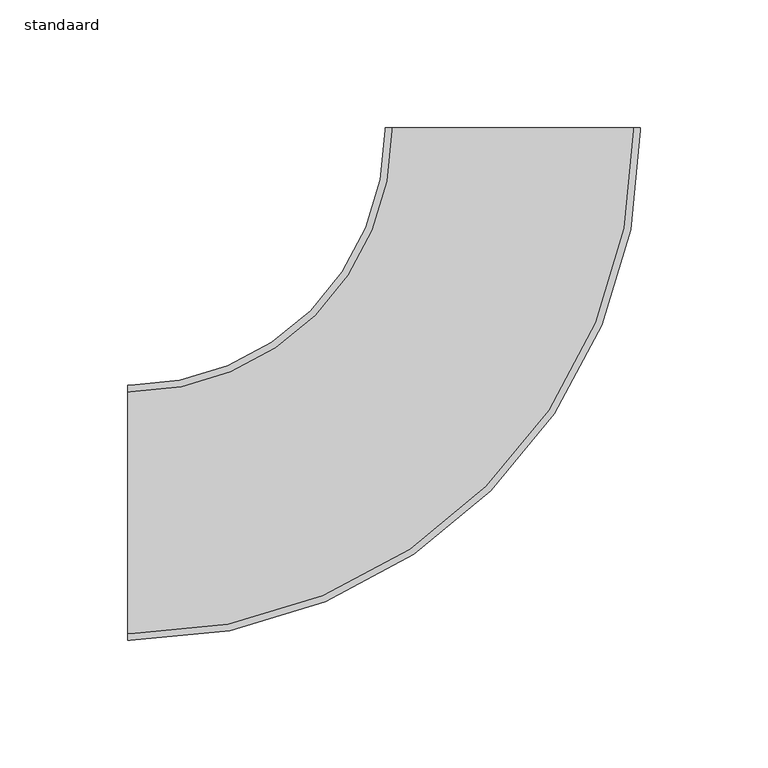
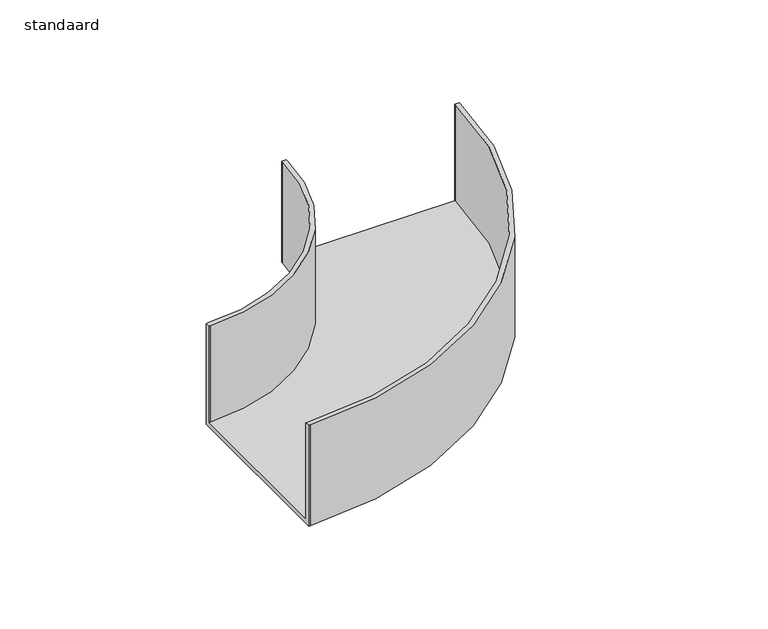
"""IFC4 building model written with IfcOpenShell, lengths in millimetres: cable carrier fitting geometry, AI_Raccord cdc_Coude horizontal rayon court : standaard."""

from ifc_helpers import new_model, si_unit, frame, origin, place, context, project, spatial, polyline, circle_curve, source, transform, mapped, element, save
from ifc_brep_helpers import plane_surface, cylinder_surface, revolved_surface, advanced_brep


def standaard_b1635a4a(model_context):
    return source(origin(), model_context, "Body", "AdvancedBrep", [
        advanced_brep(
        [(-151.0, -50.0, -30.0), (-151.0, -50.0, 30.0), (-151.0, -47.46, 30.0), (-151.0, -47.46, -27.46), (-151.0, 47.46, -27.46), (-151.0, 47.46, 30.0), (-151.0, 50.0, 30.0), (-151.0, 50.0, -30.0), (50.0, 151.0, -30.0), (-50.0, 151.0, -30.0), (-50.0, 151.0, 30.0), (-47.46, 151.0, 30.0), (-47.46, 151.0, -27.46), (47.46, 151.0, -27.46), (47.46, 151.0, 30.0), (50.0, 151.0, 30.0), (-150.0, -50.0, -30.0), (-150.0, -50.0, 30.0), (50.0, 150.0, 30.0), (47.46, 150.0, 30.0), (-150.0, -47.46, 30.0), (-150.0, -47.46, -27.46), (47.46, 150.0, -27.46), (-47.46, 150.0, -27.46), (-150.0, 47.46, -27.46), (-150.0, 47.46, 30.0), (-47.46, 150.0, 30.0), (-50.0, 150.0, 30.0), (-150.0, 50.0, 30.0), (-150.0, 50.0, -30.0), (-50.0, 150.0, -30.0), (50.0, 150.0, -30.0)],
        [
            (0, 1),
            (1, 2),
            (2, 3),
            (3, 4),
            (4, 5),
            (5, 6),
            (6, 7),
            (7, 0),
            (8, 9),
            (9, 10),
            (10, 11),
            (11, 12),
            (12, 13),
            (13, 14),
            (14, 15),
            (15, 8),
            (0, 16),
            (16, 17),
            (17, 1),
            (17, 18, circle_curve(frame((-150.0, 150.0, 30.0), z_axis=(0.0, 0.0, 1.0), x_axis=(0.0, -1.0, 0.0)), 200.0)),
            (18, 15),
            (14, 19),
            (19, 20, circle_curve(frame((-150.0, 150.0, 30.0), z_axis=(0.0, 0.0, -1.0), x_axis=(0.0, -1.0, 0.0)), 197.46)),
            (20, 2),
            (20, 21),
            (21, 3),
            (21, 22, circle_curve(frame((-150.0, 150.0, -27.46), z_axis=(0.0, 0.0, 1.0), x_axis=(0.0, -1.0, 0.0)), 197.46)),
            (22, 13),
            (12, 23),
            (23, 24, circle_curve(frame((-150.0, 150.0, -27.46), z_axis=(0.0, 0.0, -1.0), x_axis=(0.0, -1.0, 0.0)), 102.54)),
            (24, 4),
            (24, 25),
            (25, 5),
            (25, 26, circle_curve(frame((-150.0, 150.0, 30.0), z_axis=(0.0, 0.0, 1.0), x_axis=(0.0, -1.0, 0.0)), 102.54)),
            (26, 11),
            (10, 27),
            (27, 28, circle_curve(frame((-150.0, 150.0, 30.0), z_axis=(0.0, 0.0, -1.0), x_axis=(0.0, -1.0, 0.0)), 100.0)),
            (28, 6),
            (28, 29),
            (29, 7),
            (29, 30, circle_curve(frame((-150.0, 150.0, -30.0), z_axis=(0.0, 0.0, 1.0), x_axis=(0.0, -1.0, 0.0)), 100.0)),
            (30, 9),
            (8, 31),
            (31, 16, circle_curve(frame((-150.0, 150.0, -30.0), z_axis=(0.0, 0.0, -1.0), x_axis=(0.0, -1.0, 0.0)), 200.0)),
            (31, 18),
            (19, 22),
            (23, 26),
            (27, 30),
        ],
        [
            plane_surface(frame((-151.0, 0.0, 0.0), z_axis=(-1.0, -4.910971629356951e-12, 0.0), x_axis=(0.0, 0.0, 1.0))),
            plane_surface(frame((0.0, 151.0, 0.0), z_axis=(0.0, 1.0, 0.0), x_axis=(0.0, 0.0, 1.0))),
            plane_surface(frame((-151.0, -50.0, -30.0), z_axis=(4.906741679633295e-12, -1.0, 0.0), x_axis=(1.0, 4.906741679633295e-12, 0.0))),
            plane_surface(frame((-151.0, -50.0, 30.0), z_axis=(0.0, 0.0, 1.0), x_axis=(1.0, 4.906741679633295e-12, 0.0))),
            plane_surface(frame((-151.0, -47.46, 30.0), z_axis=(-4.906741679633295e-12, 1.0, 0.0), x_axis=(1.0, 4.906741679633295e-12, 0.0))),
            plane_surface(frame((-151.0, -47.46, -27.46), z_axis=(0.0, 0.0, 1.0), x_axis=(1.0, 4.889821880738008e-12, 0.0))),
            plane_surface(frame((-151.0, 47.46, -27.46), z_axis=(4.898281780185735e-12, -1.0, 0.0), x_axis=(1.0, 4.898281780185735e-12, 0.0))),
            plane_surface(frame((-151.0, 47.46, 30.0), z_axis=(0.0, 0.0, 1.0), x_axis=(1.0, 4.898281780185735e-12, 0.0))),
            plane_surface(frame((-151.0, 50.0, 30.0), z_axis=(-4.906741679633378e-12, 1.0, 0.0), x_axis=(1.0, 4.906741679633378e-12, 0.0))),
            plane_surface(frame((-151.0, 50.0, -30.0), z_axis=(0.0, 0.0, -1.0), x_axis=(1.0, 4.906741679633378e-12, 0.0))),
            cylinder_surface(frame((-150.0, 150.0, 0.0), z_axis=(0.0, 0.0, 1.0), x_axis=(0.0, -1.0, 0.0)), 200.0),
            revolved_surface(polyline([(-150.0, -47.46000000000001, 30.0), (-150.0, -47.46000000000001, -27.46)]), (-150.0, 150.0, 0.0), (0.0, 0.0, 1.0)),
            cylinder_surface(frame((-150.0, 150.0, 0.0), z_axis=(0.0, 0.0, 1.0), x_axis=(0.0, -1.0, 0.0)), 102.54),
            revolved_surface(polyline([(-150.0, 50.0, 30.0), (-150.0, 50.0, -30.0)]), (-150.0, 150.0, 0.0), (0.0, 0.0, 1.0)),
            plane_surface(frame((50.0, 150.0, -30.0), z_axis=(1.0, 0.0, 0.0), x_axis=(0.0, 1.0, 0.0))),
            plane_surface(frame((47.46, 150.0, 30.0), z_axis=(-1.0, 0.0, 0.0), x_axis=(0.0, 1.0, 0.0))),
            plane_surface(frame((-47.46, 150.0, -27.46), z_axis=(1.0, 0.0, 0.0), x_axis=(0.0, 1.0, 0.0))),
            plane_surface(frame((-50.0, 150.0, 30.0), z_axis=(-1.0, 0.0, 0.0), x_axis=(0.0, 1.0, 0.0))),
        ],
        [
            (0, [[1, 2, 3, 4, 5, 6, 7, 8]]),
            (1, [[9, 10, 11, 12, 13, 14, 15, 16]]),
            (2, [[-1, 17, 18, 19]]),
            (3, [[-2, -19, 20, 21, -15, 22, 23, 24]]),
            (4, [[-3, -24, 25, 26]]),
            (5, [[-4, -26, 27, 28, -13, 29, 30, 31]]),
            (6, [[-5, -31, 32, 33]]),
            (7, [[-6, -33, 34, 35, -11, 36, 37, 38]]),
            (8, [[-7, -38, 39, 40]]),
            (9, [[-8, -40, 41, 42, -9, 43, 44, -17]]),
            (10, [[-20, -18, -44, 45]]),
            (11, [[-27, -25, -23, 46]]),
            (12, [[-34, -32, -30, 47]]),
            (13, [[-41, -39, -37, 48]]),
            (14, [[-45, -43, -16, -21]]),
            (15, [[-46, -22, -14, -28]]),
            (16, [[-47, -29, -12, -35]]),
            (17, [[-48, -36, -10, -42]]),
        ],
    ),
    ])


if __name__ == "__main__":
    model = new_model("IFC4")
    model_context = context("Model", 3, world=origin())
    ifc_project = project(units=[si_unit("LENGTHUNIT", "METRE", prefix="MILLI")], contexts=[model_context])
    site = spatial("IfcSite", under=ifc_project)
    building = spatial("IfcBuilding", under=site)
    placement = place(None, origin())
    standaard_shape = standaard_b1635a4a(model_context)
    element("IfcCableCarrierFitting", 1, ObjectType="AI_Raccord cdc_Coude horizontal rayon court : standaard", at=placement, inside=building, context=model_context, shape_type="MappedRepresentation", body=[
        mapped(standaard_shape, transform((0.0, 0.0, 0.0), x_axis=(1.0, 0.0, 0.0), y_axis=(0.0, 1.0, 0.0), z_axis=(0.0, 0.0, 1.0))),
    ])
    save(model, "model.ifc")
